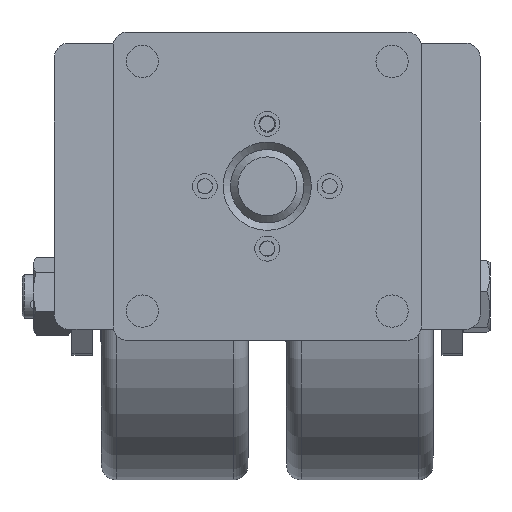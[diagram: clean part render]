
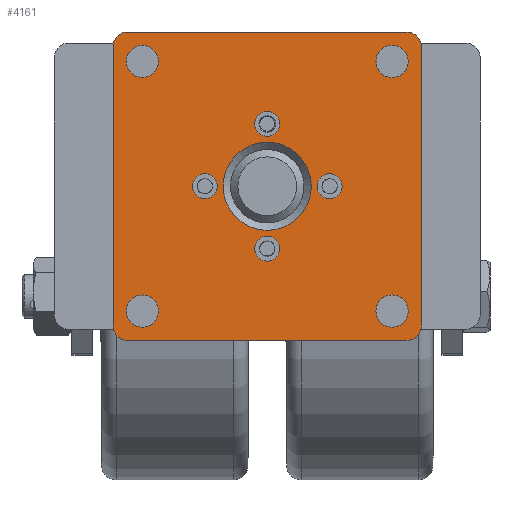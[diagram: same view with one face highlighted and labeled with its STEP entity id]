
A CAD part, front view. The second image highlights one B-rep face of the part: STEP entity #4161.
In plain terms, the highlighted planar face has unit normal (0, -1, 0).
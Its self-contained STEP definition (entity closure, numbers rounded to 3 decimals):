
#4161=ADVANCED_FACE('',(#5505,#5506,#5507,#5508,#5509,#5510,#5511,#5512,
#5513,#5514),#4776,.T.);
#4776=PLANE('',#20359);
#5505=FACE_BOUND('',#7147,.T.);
#5506=FACE_BOUND('',#7148,.T.);
#5507=FACE_BOUND('',#7149,.T.);
#5508=FACE_BOUND('',#7150,.T.);
#5509=FACE_BOUND('',#7151,.T.);
#5510=FACE_BOUND('',#7152,.T.);
#5511=FACE_BOUND('',#7153,.T.);
#5512=FACE_BOUND('',#7154,.T.);
#5513=FACE_BOUND('',#7155,.T.);
#5514=FACE_BOUND('',#7156,.T.);
#7147=EDGE_LOOP('',(#12551));
#7148=EDGE_LOOP('',(#12552));
#7149=EDGE_LOOP('',(#12553));
#7150=EDGE_LOOP('',(#12554));
#7151=EDGE_LOOP('',(#12555));
#7152=EDGE_LOOP('',(#12556,#12557,#12558,#12559,#12560,#12561,#12562,#12563));
#7153=EDGE_LOOP('',(#12564));
#7154=EDGE_LOOP('',(#12565));
#7155=EDGE_LOOP('',(#12566));
#7156=EDGE_LOOP('',(#12567));
#7956=LINE('',#46428,#8289);
#7960=LINE('',#46440,#8293);
#7964=LINE('',#46452,#8297);
#7967=LINE('',#46461,#8300);
#8289=VECTOR('',#24265,1.);
#8293=VECTOR('',#24277,1.);
#8297=VECTOR('',#24289,1.);
#8300=VECTOR('',#24300,1.);
#12551=ORIENTED_EDGE('',*,*,#17238,.T.);
#12552=ORIENTED_EDGE('',*,*,#17239,.T.);
#12553=ORIENTED_EDGE('',*,*,#17240,.T.);
#12554=ORIENTED_EDGE('',*,*,#17241,.T.);
#12555=ORIENTED_EDGE('',*,*,#17242,.T.);
#12556=ORIENTED_EDGE('',*,*,#17221,.F.);
#12557=ORIENTED_EDGE('',*,*,#17224,.T.);
#12558=ORIENTED_EDGE('',*,*,#17226,.F.);
#12559=ORIENTED_EDGE('',*,*,#17206,.T.);
#12560=ORIENTED_EDGE('',*,*,#17209,.T.);
#12561=ORIENTED_EDGE('',*,*,#17212,.T.);
#12562=ORIENTED_EDGE('',*,*,#17215,.T.);
#12563=ORIENTED_EDGE('',*,*,#17218,.T.);
#12564=ORIENTED_EDGE('',*,*,#17227,.T.);
#12565=ORIENTED_EDGE('',*,*,#17229,.T.);
#12566=ORIENTED_EDGE('',*,*,#17231,.T.);
#12567=ORIENTED_EDGE('',*,*,#17233,.T.);
#14758=VERTEX_POINT('',#46417);
#14760=VERTEX_POINT('',#46421);
#14762=VERTEX_POINT('',#46427);
#14764=VERTEX_POINT('',#46433);
#14766=VERTEX_POINT('',#46439);
#14768=VERTEX_POINT('',#46445);
#14770=VERTEX_POINT('',#46451);
#14772=VERTEX_POINT('',#46457);
#14773=VERTEX_POINT('',#46464);
#14775=VERTEX_POINT('',#46469);
#14777=VERTEX_POINT('',#46474);
#14779=VERTEX_POINT('',#46479);
#14784=VERTEX_POINT('',#46494);
#14785=VERTEX_POINT('',#46496);
#14786=VERTEX_POINT('',#46498);
#14787=VERTEX_POINT('',#46500);
#14788=VERTEX_POINT('',#46502);
#17206=EDGE_CURVE('',#14758,#14760,#18513,.T.);
#17209=EDGE_CURVE('',#14760,#14762,#7956,.T.);
#17212=EDGE_CURVE('',#14762,#14764,#18515,.T.);
#17215=EDGE_CURVE('',#14764,#14766,#7960,.T.);
#17218=EDGE_CURVE('',#14766,#14768,#18517,.T.);
#17221=EDGE_CURVE('',#14770,#14768,#7964,.T.);
#17224=EDGE_CURVE('',#14770,#14772,#18519,.T.);
#17226=EDGE_CURVE('',#14758,#14772,#7967,.T.);
#17227=EDGE_CURVE('',#14773,#14773,#18520,.T.);
#17229=EDGE_CURVE('',#14775,#14775,#18522,.T.);
#17231=EDGE_CURVE('',#14777,#14777,#18524,.T.);
#17233=EDGE_CURVE('',#14779,#14779,#18526,.T.);
#17238=EDGE_CURVE('',#14784,#14784,#18531,.T.);
#17239=EDGE_CURVE('',#14785,#14785,#18532,.T.);
#17240=EDGE_CURVE('',#14786,#14786,#18533,.T.);
#17241=EDGE_CURVE('',#14787,#14787,#18534,.T.);
#17242=EDGE_CURVE('',#14788,#14788,#18535,.T.);
#18513=CIRCLE('',#20320,10.);
#18515=CIRCLE('',#20324,10.);
#18517=CIRCLE('',#20328,10.);
#18519=CIRCLE('',#20332,10.);
#18520=CIRCLE('',#20335,11.);
#18522=CIRCLE('',#20338,11.);
#18524=CIRCLE('',#20341,11.);
#18526=CIRCLE('',#20344,11.);
#18531=CIRCLE('',#20354,8.5);
#18532=CIRCLE('',#20355,8.5);
#18533=CIRCLE('',#20356,8.5);
#18534=CIRCLE('',#20357,8.5);
#18535=CIRCLE('',#20358,30.);
#20320=AXIS2_PLACEMENT_3D('',#46422,#24259,#24260);
#20324=AXIS2_PLACEMENT_3D('',#46434,#24271,#24272);
#20328=AXIS2_PLACEMENT_3D('',#46446,#24283,#24284);
#20332=AXIS2_PLACEMENT_3D('',#46458,#24295,#24296);
#20335=AXIS2_PLACEMENT_3D('',#46463,#24303,#24304);
#20338=AXIS2_PLACEMENT_3D('',#46468,#24309,#24310);
#20341=AXIS2_PLACEMENT_3D('',#46473,#24315,#24316);
#20344=AXIS2_PLACEMENT_3D('',#46478,#24321,#24322);
#20354=AXIS2_PLACEMENT_3D('',#46493,#24341,#24342);
#20355=AXIS2_PLACEMENT_3D('',#46495,#24343,#24344);
#20356=AXIS2_PLACEMENT_3D('',#46497,#24345,#24346);
#20357=AXIS2_PLACEMENT_3D('',#46499,#24347,#24348);
#20358=AXIS2_PLACEMENT_3D('',#46501,#24349,#24350);
#20359=AXIS2_PLACEMENT_3D('',#46503,#24351,#24352);
#24259=DIRECTION('',(0.,-1.,0.));
#24260=DIRECTION('',(0.,0.,-1.));
#24265=DIRECTION('',(-1.,0.,0.));
#24271=DIRECTION('',(0.,-1.,0.));
#24272=DIRECTION('',(0.,0.,-1.));
#24277=DIRECTION('',(0.,0.,-1.));
#24283=DIRECTION('',(0.,-1.,0.));
#24284=DIRECTION('',(0.,0.,-1.));
#24289=DIRECTION('',(-1.,0.,0.));
#24295=DIRECTION('',(0.,-1.,0.));
#24296=DIRECTION('',(0.,0.,-1.));
#24300=DIRECTION('',(0.,0.,-1.));
#24303=DIRECTION('',(0.,1.,0.));
#24304=DIRECTION('',(0.,0.,-1.));
#24309=DIRECTION('',(0.,1.,0.));
#24310=DIRECTION('',(0.,0.,-1.));
#24315=DIRECTION('',(0.,1.,0.));
#24316=DIRECTION('',(0.,0.,-1.));
#24321=DIRECTION('',(0.,1.,0.));
#24322=DIRECTION('',(0.,0.,-1.));
#24341=DIRECTION('',(0.,1.,0.));
#24342=DIRECTION('',(0.,0.,1.));
#24343=DIRECTION('',(0.,1.,0.));
#24344=DIRECTION('',(0.,0.,1.));
#24345=DIRECTION('',(0.,1.,0.));
#24346=DIRECTION('',(0.,0.,1.));
#24347=DIRECTION('',(0.,1.,0.));
#24348=DIRECTION('',(0.,0.,1.));
#24349=DIRECTION('',(0.,1.,0.));
#24350=DIRECTION('',(0.,0.,-1.));
#24351=DIRECTION('',(0.,-1.,0.));
#24352=DIRECTION('',(0.,0.,-1.));
#46417=CARTESIAN_POINT('',(105.,-3.,95.));
#46421=CARTESIAN_POINT('',(95.,-3.,105.));
#46422=CARTESIAN_POINT('',(95.,-3.,95.));
#46427=CARTESIAN_POINT('',(-95.,-3.,105.));
#46428=CARTESIAN_POINT('',(-88.,-3.,105.));
#46433=CARTESIAN_POINT('',(-105.,-3.,95.));
#46434=CARTESIAN_POINT('',(-95.,-3.,95.));
#46439=CARTESIAN_POINT('',(-105.,-3.,-95.));
#46440=CARTESIAN_POINT('',(-105.,-3.,88.));
#46445=CARTESIAN_POINT('',(-95.,-3.,-105.));
#46446=CARTESIAN_POINT('',(-95.,-3.,-95.));
#46451=CARTESIAN_POINT('',(95.,-3.,-105.));
#46452=CARTESIAN_POINT('',(-88.,-3.,-105.));
#46457=CARTESIAN_POINT('',(105.,-3.,-95.));
#46458=CARTESIAN_POINT('',(95.,-3.,-95.));
#46461=CARTESIAN_POINT('',(105.,-3.,-88.));
#46463=CARTESIAN_POINT('',(85.,-3.,85.));
#46464=CARTESIAN_POINT('',(85.,-3.,74.));
#46468=CARTESIAN_POINT('',(-85.,-3.,-85.));
#46469=CARTESIAN_POINT('',(-85.,-3.,-96.));
#46473=CARTESIAN_POINT('',(85.,-3.,-85.));
#46474=CARTESIAN_POINT('',(85.,-3.,-96.));
#46478=CARTESIAN_POINT('',(-85.,-3.,85.));
#46479=CARTESIAN_POINT('',(-85.,-3.,74.));
#46493=CARTESIAN_POINT('',(0.,-3.,-42.5));
#46494=CARTESIAN_POINT('',(0.,-3.,-34.));
#46495=CARTESIAN_POINT('',(42.5,-3.,0.));
#46496=CARTESIAN_POINT('',(42.5,-3.,8.5));
#46497=CARTESIAN_POINT('',(0.,-3.,42.5));
#46498=CARTESIAN_POINT('',(0.,-3.,51.));
#46499=CARTESIAN_POINT('',(-42.5,-3.,0.));
#46500=CARTESIAN_POINT('',(-42.5,-3.,8.5));
#46501=CARTESIAN_POINT('',(0.,-3.,0.));
#46502=CARTESIAN_POINT('',(0.,-3.,-30.));
#46503=CARTESIAN_POINT('',(-88.,-3.,-88.));
